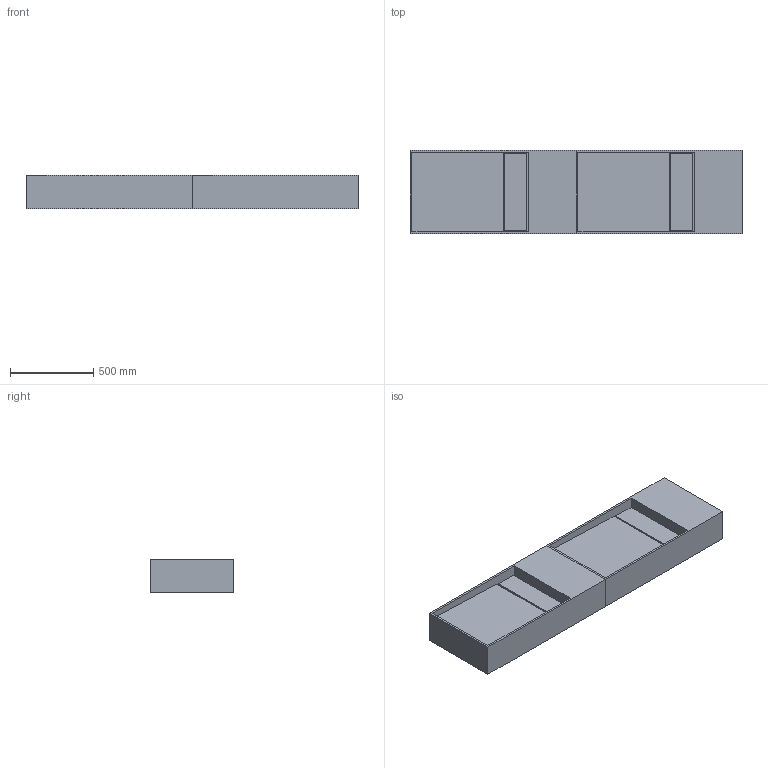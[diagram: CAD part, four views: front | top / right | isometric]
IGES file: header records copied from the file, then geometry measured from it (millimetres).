
Global section: file name: D:\Desktop\GIOVANNI\SCHEDE PRODOTTO\PIANI LAVABO\PARK PLACE\3D\MOMA DESIGN_PIANI LAVABO_PARK PLACE 3.igs; native system: Rhinoceros ( Jan 17 2018 ); preprocessor: Trout Lake IGES 012 Jan 17 2018; date: 230606.154503; units: millimetre
Bounding box: 2000 x 500 x 200 mm (x, y, z)
Surface area: 3847444 mm2 (no closed solid volume)
Topology: 0 solids, 0 shells, 38 faces, 168 edges, 168 vertices
Faces by surface type: bspline 38
